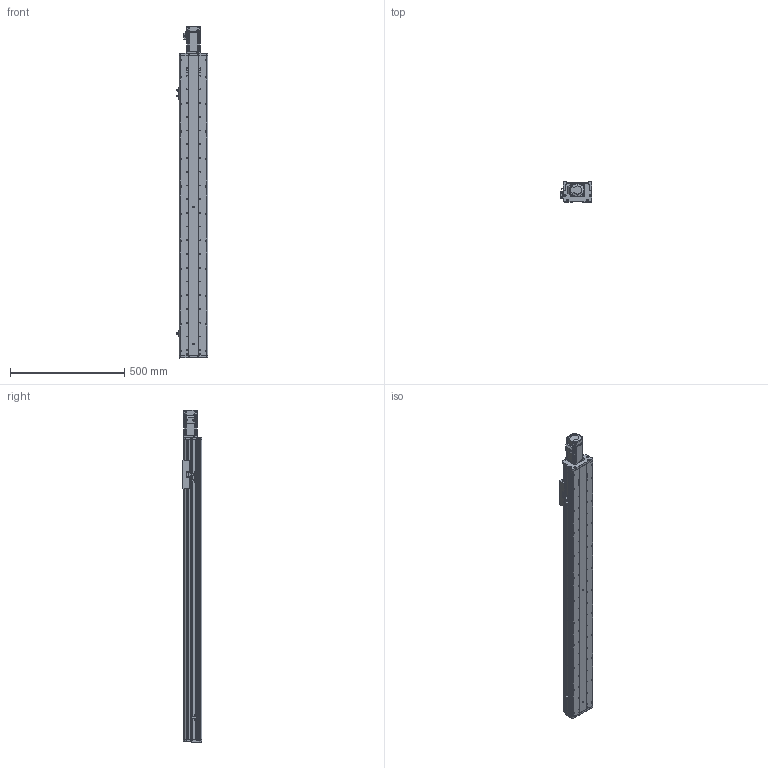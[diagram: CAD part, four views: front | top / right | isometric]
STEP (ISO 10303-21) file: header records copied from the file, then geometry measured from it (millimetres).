
FILE_DESCRIPTION (( 'STEP AP214' ), '1' );
FILE_NAME ('KSD125S-S1050-MN-CM.STEP', '2017-08-07T06:26:54', ( '微软用户' ), ( '微软中国' ), 'SwSTEP 2.0', 'SolidWorks 2014', '' );
FILE_SCHEMA (( 'AUTOMOTIVE_DESIGN' ));
Length unit declared in the file: millimetre
Products named in the file (12): MHMD042G1CA_2_03; 拸萇儂釱滅袉菜; 覜茼え68遵圉猾敕; U倰嫖萇假蚾璃; U倰嫖萇EEㄜSX672; KSD125-賑雄釱1; CS-34X32-10X14; 125-帣傷啣1; KSD125S-S1050-MN-CM; KSD125S-1050行程丝杆防尘盖-直连不带电机座; KSD125S-1050行程丝杆底板-直连不带电机座; 125宽模组 - 直连不带电机座电机安装板
Assembly tree (15 placements, depth 2):
  KSD125S-S1050-MN-CM
    125-帣傷啣1
    CS-34X32-10X14
    KSD125-賑雄釱1
    U倰嫖萇EEㄜSX672  x3
    U倰嫖萇假蚾璃  x3
    覜茼え68遵圉猾敕
    拸萇儂釱滅袉菜
    MHMD042G1CA_2_03
    125宽模组 - 直连不带电机座电机安装板
    KSD125S-1050行程丝杆底板-直连不带电机座
    KSD125S-1050行程丝杆防尘盖-直连不带电机座
Bounding box: 138.7 x 86 x 1451.5 mm (x, y, z)
Volume: 4117552.1 mm3; surface area: 1344357.9 mm2
Topology: 14 solids, 17 shells, 1536 faces, 4455 edges, 2933 vertices
Faces by surface type: cylinder 796, plane 627, cone 91, bspline 22
Entity records: 54600 total; most frequent: CARTESIAN_POINT 11574, DIRECTION 7767, ORIENTED_EDGE 7418, EDGE_CURVE 3787, AXIS2_PLACEMENT_3D 2876, VERTEX_POINT 2525, VECTOR 2015, LINE 2015
